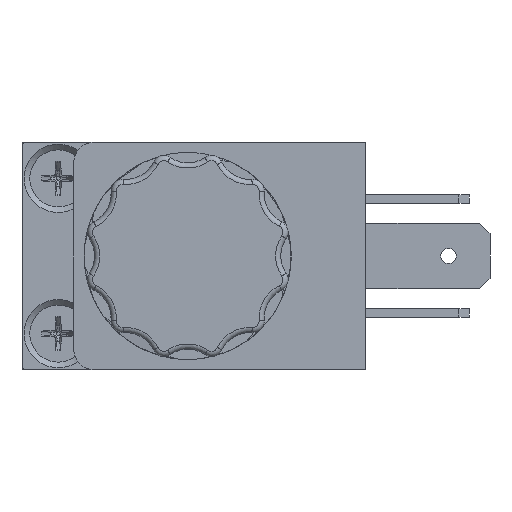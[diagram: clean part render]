
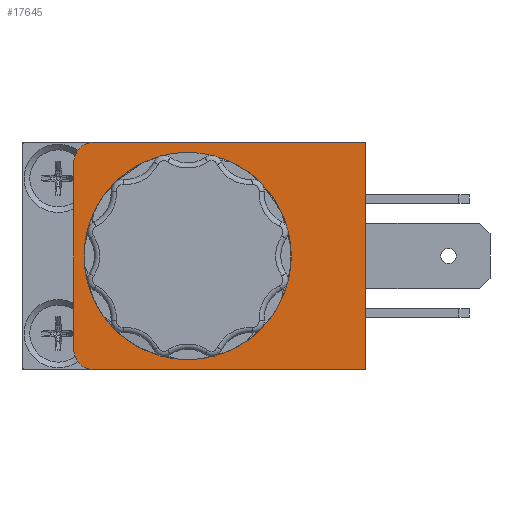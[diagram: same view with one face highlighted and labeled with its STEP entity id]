
A CAD part, left-side view. The second image highlights one B-rep face of the part: STEP entity #17645.
In plain terms, the highlighted planar face has unit normal (-1, 0, 0) as drawn and (0, 0, 1) by its records, which use the part's own axes.
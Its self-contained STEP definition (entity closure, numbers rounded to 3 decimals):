
#2970 = AXIS2_PLACEMENT_3D ( 'NONE', #5010, #5011, #5012 ) ;
#3070 = AXIS2_PLACEMENT_3D ( 'NONE', #4976, #4978, #4979 ) ;
#3075 = AXIS2_PLACEMENT_3D ( 'NONE', #5206, #5207, #5208 ) ;
#4030 = LINE ( 'NONE', #4932, #4031 ) ;
#4031 = VECTOR ( 'NONE', #4933, 1000. ) ;
#4069 = CIRCLE ( 'NONE', #3070, 2. ) ;
#4097 = LINE ( 'NONE', #5016, #4103 ) ;
#4101 = CIRCLE ( 'NONE', #2970, 8.3 ) ;
#4103 = VECTOR ( 'NONE', #5017, 1000. ) ;
#4932 = CARTESIAN_POINT ( 'NONE',  ( -9., 11., 30.5 ) ) ;
#4933 = DIRECTION ( 'NONE',  ( 1., 0., 0. ) ) ;
#4976 = CARTESIAN_POINT ( 'NONE',  ( -9., 9., 30.5 ) ) ;
#4978 = DIRECTION ( 'NONE',  ( 0., 0., -1. ) ) ;
#4979 = DIRECTION ( 'NONE',  ( -0.707, 0.707, 0. ) ) ;
#5010 = CARTESIAN_POINT ( 'NONE',  ( 0., 0., 30.5 ) ) ;
#5011 = DIRECTION ( 'NONE',  ( 0., 0., -1. ) ) ;
#5012 = DIRECTION ( 'NONE',  ( -1., 0., 0. ) ) ;
#5016 = CARTESIAN_POINT ( 'NONE',  ( 11., 9., 30.5 ) ) ;
#5017 = DIRECTION ( 'NONE',  ( 0., -1., 0. ) ) ;
#5206 = CARTESIAN_POINT ( 'NONE',  ( 9., 9., 30.5 ) ) ;
#5207 = DIRECTION ( 'NONE',  ( 0., 0., -1. ) ) ;
#5208 = DIRECTION ( 'NONE',  ( 0.707, 0.707, 0. ) ) ;
#5251 = CARTESIAN_POINT ( 'NONE',  ( 11., -17.2, 30.5 ) ) ;
#5252 = DIRECTION ( 'NONE',  ( -1., 0., 0. ) ) ;
#5572 = CIRCLE ( 'NONE', #3075, 2. ) ;
#5596 = LINE ( 'NONE', #5251, #5599 ) ;
#5599 = VECTOR ( 'NONE', #5252, 1000. ) ;
#11825 = ORIENTED_EDGE ( 'NONE', *, *, #19697, .F. ) ;
#11826 = ORIENTED_EDGE ( 'NONE', *, *, #17484, .F. ) ;
#11827 = ORIENTED_EDGE ( 'NONE', *, *, #19816, .F. ) ;
#11828 = ORIENTED_EDGE ( 'NONE', *, *, #19713, .T. ) ;
#11935 = ORIENTED_EDGE ( 'NONE', *, *, #19715, .F. ) ;
#12058 = ORIENTED_EDGE ( 'NONE', *, *, #19676, .F. ) ;
#12060 = ORIENTED_EDGE ( 'NONE', *, *, #19798, .F. ) ;
#15779 = VERTEX_POINT ( 'NONE', #15780 ) ;
#15780 = CARTESIAN_POINT ( 'NONE',  ( -8.3, 0., 30.5 ) ) ;
#16019 = VERTEX_POINT ( 'NONE', #18317 ) ;
#16551 = VERTEX_POINT ( 'NONE', #18843 ) ;
#16564 = VERTEX_POINT ( 'NONE', #18856 ) ;
#16578 = VERTEX_POINT ( 'NONE', #18870 ) ;
#16586 = VERTEX_POINT ( 'NONE', #18878 ) ;
#16598 = VERTEX_POINT ( 'NONE', #18890 ) ;
#17484 = EDGE_CURVE ( 'NONE', #16551, #16598, #26024, .T. ) ;
#17645 = ADVANCED_FACE ( 'NONE', ( #26278, #26287 ), #26600, .T. ) ;
#18317 = CARTESIAN_POINT ( 'NONE',  ( -9., 11., 30.5 ) ) ;
#18843 = CARTESIAN_POINT ( 'NONE',  ( -11., -17.2, 30.5 ) ) ;
#18856 = CARTESIAN_POINT ( 'NONE',  ( 11., -17.2, 30.5 ) ) ;
#18870 = CARTESIAN_POINT ( 'NONE',  ( 9., 11., 30.5 ) ) ;
#18878 = CARTESIAN_POINT ( 'NONE',  ( 11., 9., 30.5 ) ) ;
#18890 = CARTESIAN_POINT ( 'NONE',  ( -11., 9., 30.5 ) ) ;
#19375 = CARTESIAN_POINT ( 'NONE',  ( -11., -17.2, 30.5 ) ) ;
#19396 = DIRECTION ( 'NONE',  ( 0., 1., 0. ) ) ;
#19676 = EDGE_CURVE ( 'NONE', #16019, #16578, #4030, .T. ) ;
#19697 = EDGE_CURVE ( 'NONE', #16598, #16019, #4069, .T. ) ;
#19713 = EDGE_CURVE ( 'NONE', #15779, #15779, #4101, .T. ) ;
#19715 = EDGE_CURVE ( 'NONE', #16586, #16564, #4097, .T. ) ;
#19798 = EDGE_CURVE ( 'NONE', #16578, #16586, #5572, .T. ) ;
#19816 = EDGE_CURVE ( 'NONE', #16564, #16551, #5596, .T. ) ;
#25423 = AXIS2_PLACEMENT_3D ( 'NONE', #26596, #26609, #26610 ) ;
#25849 = EDGE_LOOP ( 'NONE', ( #11828 ) ) ;
#25856 = EDGE_LOOP ( 'NONE', ( #12060, #12058, #11825, #11826, #11827, #11935 ) ) ;
#26024 = LINE ( 'NONE', #19375, #26051 ) ;
#26051 = VECTOR ( 'NONE', #19396, 1000. ) ;
#26278 = FACE_OUTER_BOUND ( 'NONE', #25856, .T. ) ;
#26287 = FACE_BOUND ( 'NONE', #25849, .T. ) ;
#26596 = CARTESIAN_POINT ( 'NONE',  ( 0., -3.1, 30.5 ) ) ;
#26600 = PLANE ( 'NONE',  #25423 ) ;
#26609 = DIRECTION ( 'NONE',  ( 0., 0., 1. ) ) ;
#26610 = DIRECTION ( 'NONE',  ( 0.707, 0.707, 0. ) ) ;
